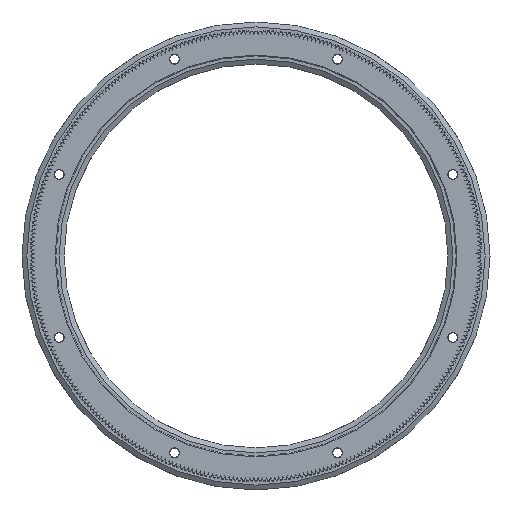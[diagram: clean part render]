
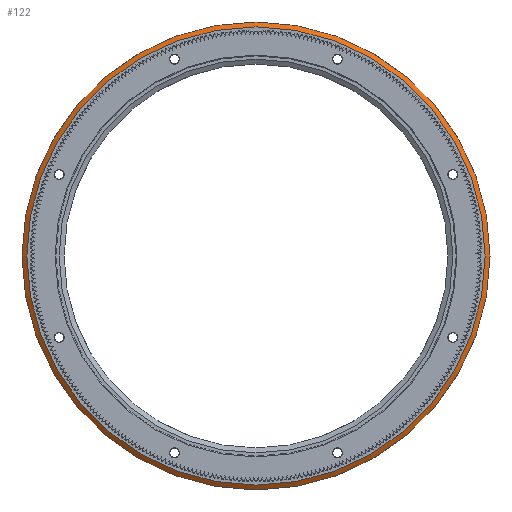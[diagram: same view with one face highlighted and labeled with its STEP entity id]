
A CAD part, front view. The second image highlights one B-rep face of the part: STEP entity #122.
In plain terms, the highlighted conical face has half-angle 55 degrees and reference radius 137.157 mm.
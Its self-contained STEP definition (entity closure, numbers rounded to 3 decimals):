
#122 = ADVANCED_FACE( '', ( #2289, #2290 ), #2291, .T. );
#2289 = FACE_OUTER_BOUND( '', #6479, .T. );
#2290 = FACE_BOUND( '', #6480, .T. );
#2291 = CONICAL_SURFACE( '', #6481, 137.157, 0.96 );
#6479 = EDGE_LOOP( '', ( #11796 ) );
#6480 = EDGE_LOOP( '', ( #11797 ) );
#6481 = AXIS2_PLACEMENT_3D( '', #11798, #11799, #11800 );
#11796 = ORIENTED_EDGE( '', *, *, #28650, .T. );
#11797 = ORIENTED_EDGE( '', *, *, #28651, .F. );
#11798 = CARTESIAN_POINT( '', ( 0., 7.75, 0. ) );
#11799 = DIRECTION( '', ( 0., 1., 0. ) );
#11800 = DIRECTION( '', ( 0., 0., 1. ) );
#28650 = EDGE_CURVE( '', #35152, #35152, #35153, .T. );
#28651 = EDGE_CURVE( '', #35154, #35154, #35155, .T. );
#35152 = VERTEX_POINT( '', #44705 );
#35153 = CIRCLE( '', #44706, 139.937 );
#35154 = VERTEX_POINT( '', #44707 );
#35155 = CIRCLE( '', #44708, 137.157 );
#44705 = CARTESIAN_POINT( '', ( 0., 9.697, -139.937 ) );
#44706 = AXIS2_PLACEMENT_3D( '', #57580, #57581, #57582 );
#44707 = CARTESIAN_POINT( '', ( 0., 7.75, -137.157 ) );
#44708 = AXIS2_PLACEMENT_3D( '', #57583, #57584, #57585 );
#57580 = CARTESIAN_POINT( '', ( 0., 9.697, 0. ) );
#57581 = DIRECTION( '', ( 0., -1., 0. ) );
#57582 = DIRECTION( '', ( 0., 0., -1. ) );
#57583 = CARTESIAN_POINT( '', ( 0., 7.75, 0. ) );
#57584 = DIRECTION( '', ( 0., -1., 0. ) );
#57585 = DIRECTION( '', ( 0., 0., -1. ) );
